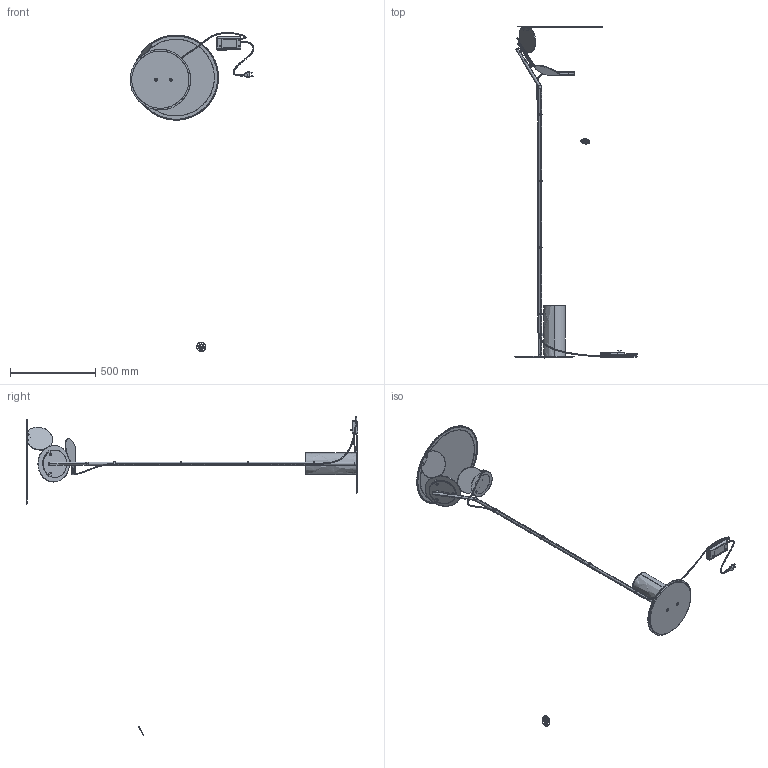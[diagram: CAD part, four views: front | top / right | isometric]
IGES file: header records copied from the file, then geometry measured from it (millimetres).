
Start section: SolidWorks IGES file using analytic representation for surfaces
Global section: file name: D:\OneDrive\Projects\AXO067 CUT II\DRAW\3D\STEP-IGES\CUT-FLOOR_3.IGS; native system: SolidWorks 2019; preprocessor: SolidWorks 2019; author: tecnico8; date: 190725.160504; units: millimetre
Bounding box: 725.78 x 1945.39 x 1869.07 mm (x, y, z)
Surface area: 1881485.2 mm2 (no closed solid volume)
Topology: 0 solids, 0 shells, 2065 faces, 22391 edges, 22359 vertices
Faces by surface type: bspline 1262, revolution 803
